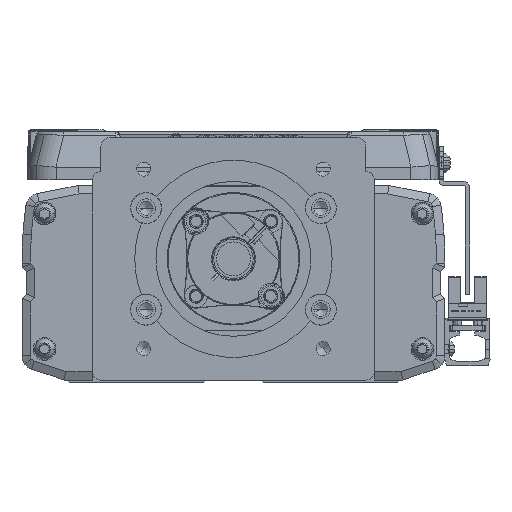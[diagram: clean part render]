
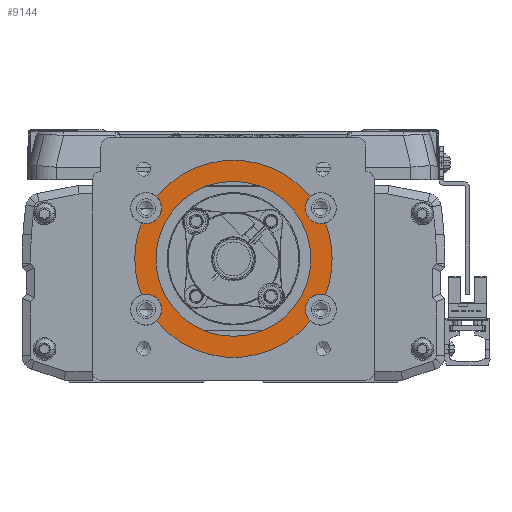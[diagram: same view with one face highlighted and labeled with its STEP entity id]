
A CAD part, left-side view. The second image highlights one B-rep face of the part: STEP entity #9144.
In plain terms, the highlighted planar face has unit normal (-1, 0, 0).
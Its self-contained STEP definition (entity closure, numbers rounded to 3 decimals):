
#9144=ADVANCED_FACE('',(#19521,#19522),#19523,.F.);
#19521=FACE_OUTER_BOUND('',#32873,.T.);
#19522=FACE_BOUND('',#32874,.T.);
#19523=PLANE('',#32875);
#32873=EDGE_LOOP('',(#58473,#58474,#58475,#58476,#58477,#58478,#58479,#58480,#58481,#58482,#58483,#58484,#58485,#58486));
#32874=EDGE_LOOP('',(#58487,#58488));
#32875=AXIS2_PLACEMENT_3D('',#58489,#58490,#58491);
#58473=ORIENTED_EDGE('',*,*,#76008,.F.);
#58474=ORIENTED_EDGE('',*,*,#80979,.T.);
#58475=ORIENTED_EDGE('',*,*,#76853,.T.);
#58476=ORIENTED_EDGE('',*,*,#80980,.F.);
#58477=ORIENTED_EDGE('',*,*,#78234,.F.);
#58478=ORIENTED_EDGE('',*,*,#78089,.T.);
#58479=ORIENTED_EDGE('',*,*,#73258,.F.);
#58480=ORIENTED_EDGE('',*,*,#73751,.F.);
#58481=ORIENTED_EDGE('',*,*,#80981,.T.);
#58482=ORIENTED_EDGE('',*,*,#80982,.T.);
#58483=ORIENTED_EDGE('',*,*,#75776,.F.);
#58484=ORIENTED_EDGE('',*,*,#72516,.F.);
#58485=ORIENTED_EDGE('',*,*,#80983,.T.);
#58486=ORIENTED_EDGE('',*,*,#80868,.F.);
#58487=ORIENTED_EDGE('',*,*,#74703,.F.);
#58488=ORIENTED_EDGE('',*,*,#71429,.F.);
#58489=CARTESIAN_POINT('',(-69.,0.,0.));
#58490=DIRECTION('',(1.0,0.,0.));
#58491=DIRECTION('',(0.,1.0,0.));
#71429=EDGE_CURVE('',#85018,#85020,#85021,.T.);
#72516=EDGE_CURVE('',#86960,#86962,#86963,.T.);
#73258=EDGE_CURVE('',#88235,#88237,#88238,.T.);
#73751=EDGE_CURVE('',#89054,#88235,#89056,.T.);
#74703=EDGE_CURVE('',#85020,#85018,#90628,.T.);
#75776=EDGE_CURVE('',#86962,#92355,#92356,.T.);
#76008=EDGE_CURVE('',#92722,#92724,#92725,.T.);
#76853=EDGE_CURVE('',#94003,#94005,#94007,.T.);
#78089=EDGE_CURVE('',#95821,#88237,#95823,.T.);
#78234=EDGE_CURVE('',#95821,#96026,#96027,.T.);
#80868=EDGE_CURVE('',#92724,#99584,#99585,.T.);
#80979=EDGE_CURVE('',#92722,#94003,#99714,.T.);
#80980=EDGE_CURVE('',#96026,#94005,#99715,.T.);
#80981=EDGE_CURVE('',#89054,#99716,#99717,.T.);
#80982=EDGE_CURVE('',#99716,#92355,#99718,.T.);
#80983=EDGE_CURVE('',#86960,#99584,#99719,.T.);
#85018=VERTEX_POINT('',#104586);
#85020=VERTEX_POINT('',#104589);
#85021=CIRCLE('',#104590,27.5);
#86960=VERTEX_POINT('',#108227);
#86962=VERTEX_POINT('',#108230);
#86963=CIRCLE('',#108231,5.5);
#88235=VERTEX_POINT('',#109966);
#88237=VERTEX_POINT('',#109969);
#88238=CIRCLE('',#109970,5.5);
#89054=VERTEX_POINT('',#111058);
#89056=CIRCLE('',#111061,5.5);
#90628=CIRCLE('',#113168,27.5);
#92355=VERTEX_POINT('',#115626);
#92356=CIRCLE('',#115627,5.5);
#92722=VERTEX_POINT('',#116107);
#92724=VERTEX_POINT('',#116110);
#92725=CIRCLE('',#116111,5.5);
#94003=VERTEX_POINT('',#117894);
#94005=VERTEX_POINT('',#117897);
#94007=CIRCLE('',#117900,35.0);
#95821=VERTEX_POINT('',#120500);
#95823=CIRCLE('',#120503,35.0);
#96026=VERTEX_POINT('',#120832);
#96027=CIRCLE('',#120833,5.5);
#99584=VERTEX_POINT('',#125929);
#99585=CIRCLE('',#125930,5.5);
#99714=CIRCLE('',#126137,35.0);
#99715=CIRCLE('',#126138,5.5);
#99716=VERTEX_POINT('',#126139);
#99717=CIRCLE('',#126140,35.0);
#99718=CIRCLE('',#126141,35.0);
#99719=CIRCLE('',#126142,35.0);
#104586=CARTESIAN_POINT('',(-69.,27.5,0.));
#104589=CARTESIAN_POINT('',(-69.,-27.5,0.));
#104590=AXIS2_PLACEMENT_3D('',#131461,#131462,#131463);
#108227=CARTESIAN_POINT('',(-69.,-27.223,21.998));
#108230=CARTESIAN_POINT('',(-69.,-25.5,18.));
#108231=AXIS2_PLACEMENT_3D('',#132947,#132948,#132949);
#109966=CARTESIAN_POINT('',(-69.,-25.5,-18.));
#109969=CARTESIAN_POINT('',(-69.,-27.223,-21.998));
#109970=AXIS2_PLACEMENT_3D('',#134020,#134021,#134022);
#111058=CARTESIAN_POINT('',(-69.,-32.6,-12.738));
#111061=AXIS2_PLACEMENT_3D('',#134760,#134761,#134762);
#113168=AXIS2_PLACEMENT_3D('',#136222,#136223,#136224);
#115626=CARTESIAN_POINT('',(-69.,-32.6,12.738));
#115627=AXIS2_PLACEMENT_3D('',#137864,#137865,#137866);
#116107=CARTESIAN_POINT('',(-69.,32.6,12.738));
#116110=CARTESIAN_POINT('',(-69.,25.5,18.));
#116111=AXIS2_PLACEMENT_3D('',#138208,#138209,#138210);
#117894=CARTESIAN_POINT('',(-69.,35.,0.));
#117897=CARTESIAN_POINT('',(-69.,32.6,-12.738));
#117900=AXIS2_PLACEMENT_3D('',#139389,#139390,#139391);
#120500=CARTESIAN_POINT('',(-69.,27.223,-21.998));
#120503=AXIS2_PLACEMENT_3D('',#141043,#141044,#141045);
#120832=CARTESIAN_POINT('',(-69.,25.5,-18.));
#120833=AXIS2_PLACEMENT_3D('',#141214,#141215,#141216);
#125929=CARTESIAN_POINT('',(-69.,27.223,21.998));
#125930=AXIS2_PLACEMENT_3D('',#144726,#144727,#144728);
#126137=AXIS2_PLACEMENT_3D('',#144845,#144846,#144847);
#126138=AXIS2_PLACEMENT_3D('',#144848,#144849,#144850);
#126139=CARTESIAN_POINT('',(-69.,-35.,0.));
#126140=AXIS2_PLACEMENT_3D('',#144851,#144852,#144853);
#126141=AXIS2_PLACEMENT_3D('',#144854,#144855,#144856);
#126142=AXIS2_PLACEMENT_3D('',#144857,#144858,#144859);
#131461=CARTESIAN_POINT('',(-69.,0.,0.));
#131462=DIRECTION('',(-1.0,0.,0.));
#131463=DIRECTION('',(0.,1.0,0.));
#132947=CARTESIAN_POINT('',(-69.,-31.,18.));
#132948=DIRECTION('',(-1.0,0.,0.));
#132949=DIRECTION('',(0.,-1.0,0.));
#134020=CARTESIAN_POINT('',(-69.,-31.,-18.));
#134021=DIRECTION('',(-1.0,0.,0.));
#134022=DIRECTION('',(0.,-1.0,0.));
#134760=CARTESIAN_POINT('',(-69.,-31.,-18.));
#134761=DIRECTION('',(-1.0,0.,0.));
#134762=DIRECTION('',(0.,-1.0,0.));
#136222=CARTESIAN_POINT('',(-69.,0.,0.));
#136223=DIRECTION('',(-1.0,0.,0.));
#136224=DIRECTION('',(0.,1.0,0.));
#137864=CARTESIAN_POINT('',(-69.,-31.,18.));
#137865=DIRECTION('',(-1.0,0.,0.));
#137866=DIRECTION('',(0.,-1.0,0.));
#138208=CARTESIAN_POINT('',(-69.,31.,18.));
#138209=DIRECTION('',(-1.0,0.,0.));
#138210=DIRECTION('',(0.,1.0,0.));
#139389=CARTESIAN_POINT('',(-69.,0.,0.));
#139390=DIRECTION('',(-1.0,0.,0.));
#139391=DIRECTION('',(0.,1.0,0.));
#141043=CARTESIAN_POINT('',(-69.,0.,0.));
#141044=DIRECTION('',(-1.0,0.,0.));
#141045=DIRECTION('',(0.,1.0,0.));
#141214=CARTESIAN_POINT('',(-69.,31.,-18.));
#141215=DIRECTION('',(-1.0,0.,0.));
#141216=DIRECTION('',(0.,1.0,0.));
#144726=CARTESIAN_POINT('',(-69.,31.,18.));
#144727=DIRECTION('',(-1.0,0.,0.));
#144728=DIRECTION('',(0.,1.0,0.));
#144845=CARTESIAN_POINT('',(-69.,0.,0.));
#144846=DIRECTION('',(-1.0,0.,0.));
#144847=DIRECTION('',(0.,1.0,0.));
#144848=CARTESIAN_POINT('',(-69.,31.,-18.));
#144849=DIRECTION('',(-1.0,0.,0.));
#144850=DIRECTION('',(0.,1.0,0.));
#144851=CARTESIAN_POINT('',(-69.,0.,0.));
#144852=DIRECTION('',(-1.0,0.,0.));
#144853=DIRECTION('',(0.,1.0,0.));
#144854=CARTESIAN_POINT('',(-69.,0.,0.));
#144855=DIRECTION('',(-1.0,0.,0.));
#144856=DIRECTION('',(0.,1.0,0.));
#144857=CARTESIAN_POINT('',(-69.,0.,0.));
#144858=DIRECTION('',(-1.0,0.,0.));
#144859=DIRECTION('',(0.,1.0,0.));
